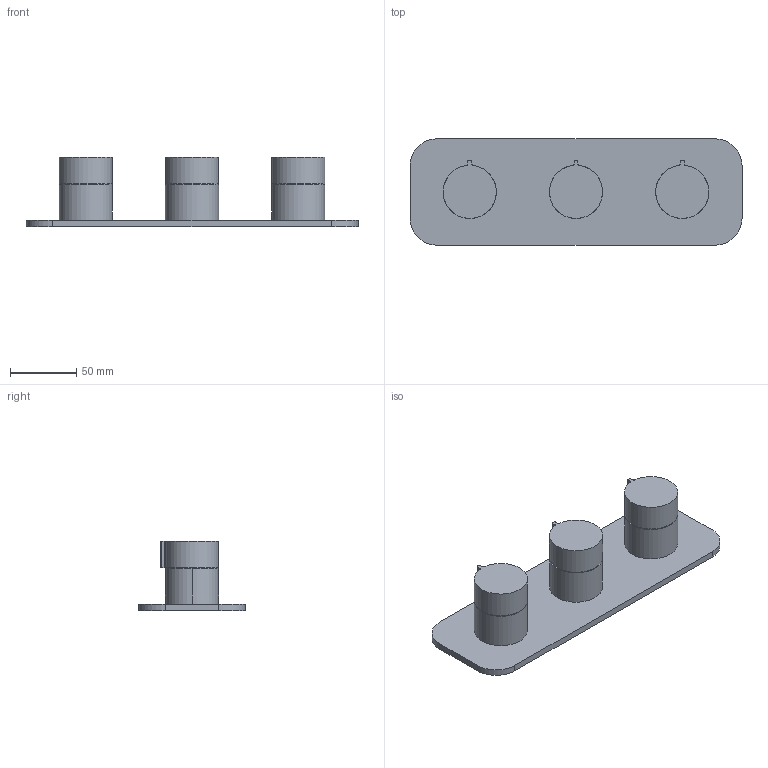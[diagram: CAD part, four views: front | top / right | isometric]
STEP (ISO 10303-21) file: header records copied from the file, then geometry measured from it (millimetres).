
FILE_DESCRIPTION(('FreeCAD Model'),'2;1');
FILE_NAME('Open CASCADE Shape Model','2024-07-25T14:49:48',('Author'),( ''),'Open CASCADE STEP processor 7.6','FreeCAD','Unknown');
FILE_SCHEMA(('AUTOMOTIVE_DESIGN { 1 0 10303 214 1 1 1 1 }'));
Length unit declared in the file: millimetre
Products named in the file (14): TopLevelAssembly; Wyciąganie001; Wyciąganie005; Wyciąganie002; Wyciąganie003; Wyciąganie004; Wyciąganie009; Wyciąganie006; Wyciąganie007; Wyciąganie008; Wyciąganie013; Wyciąganie010; Wyciąganie011; Wyciąganie012
Assembly tree (13 placements, depth 3):
  TopLevelAssembly
    Wyciąganie001
    Wyciąganie005
      Wyciąganie002
      Wyciąganie003
      Wyciąganie004
    Wyciąganie009
      Wyciąganie006
      Wyciąganie007
      Wyciąganie008
    Wyciąganie013
      Wyciąganie010
      Wyciąganie011
      Wyciąganie012
Bounding box: 250 x 80 x 52.5 mm (x, y, z)
Volume: 276695.7 mm3; surface area: 81813 mm2
Topology: 10 solids, 10 shells, 64 faces, 126 edges, 82 vertices
Faces by surface type: plane 33, cylinder 31
Entity records: 1992 total; most frequent: DIRECTION 344, CARTESIAN_POINT 286, ORIENTED_EDGE 252, AXIS2_PLACEMENT_3D 140, EDGE_CURVE 126, VERTEX_POINT 82, ADVANCED_FACE 64, FACE_BOUND 64
